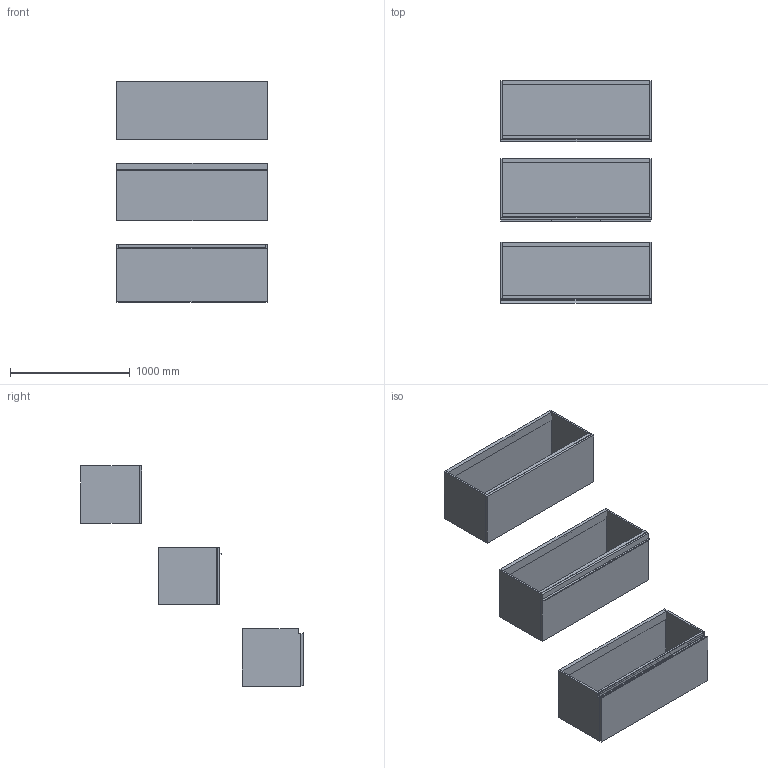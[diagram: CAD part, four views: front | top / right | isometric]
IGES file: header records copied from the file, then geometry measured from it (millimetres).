
Start section: Data from Parasolid IGES Translator 19.0.9, Copyright(c) 2006 Siemens PL M Software. All Rights Reserved.
Global section: file name: noorth-SI-H 48 D 51 W 126_8516.igs; native system: By Siemens PLM Incorporated; preprocessor: XPlus GENERIC/IGES 19.0.9; author: Noname; organization: Noname; date: 20200601.114201; units: metre
Bounding box: 1260 x 1857.1 x 1840.01 mm (x, y, z)
Volume: 100206982.6 mm3; surface area: 15158143 mm2
Topology: 23 solids, 23 shells, 196 faces, 418 edges, 258 vertices
Faces by surface type: plane 152, extrusion 16, bspline 16, cylinder 12
